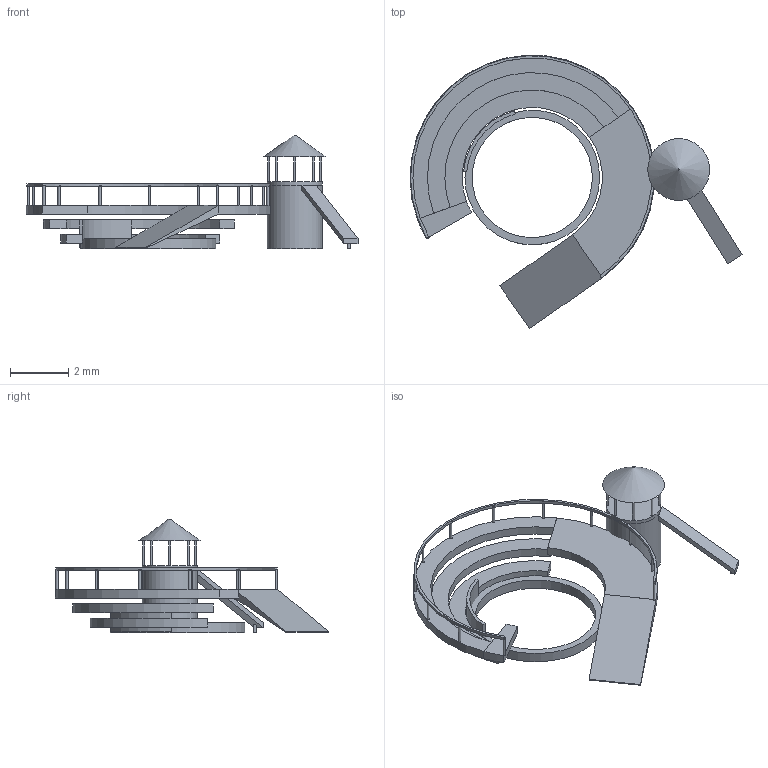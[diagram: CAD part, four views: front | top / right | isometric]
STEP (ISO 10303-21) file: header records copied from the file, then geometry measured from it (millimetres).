
FILE_DESCRIPTION(('ORION SD-AMF-05 Amfiteatr-pesochnitsa s igrovoy bashney | OOO ORION | zavod-orion.ru | sales@zavod-orion.ru | tel +7 __________'),'2;1');
FILE_NAME('AutoCAD Shape Model','2026-08-08T22:08:42',('Author'),( 'AutoCAD'),'AutoCAD STEP processor 7.9','AutoCAD 7.9' ,'Unknown');
FILE_SCHEMA(('AUTOMOTIVE_DESIGN { 1 0 10303 214 1 1 1 1 }'));
Length unit declared in the file: millimetre
Products named in the file (35): ORION SD-AMF-05 Amfiteatr-pesochnitsa s igrovoy bashney
Assembly tree (34 placements, depth 2):
  ORION SD-AMF-05 Amfiteatr-pesochnitsa s igrovoy bashney
    ORION SD-AMF-05 Amfiteatr-pesochnitsa s igrovoy bashney
    ORION SD-AMF-05 Amfiteatr-pesochnitsa s igrovoy bashney
    ORION SD-AMF-05 Amfiteatr-pesochnitsa s igrovoy bashney
    ORION SD-AMF-05 Amfiteatr-pesochnitsa s igrovoy bashney
    ORION SD-AMF-05 Amfiteatr-pesochnitsa s igrovoy bashney
    ORION SD-AMF-05 Amfiteatr-pesochnitsa s igrovoy bashney
    ORION SD-AMF-05 Amfiteatr-pesochnitsa s igrovoy bashney
    ORION SD-AMF-05 Amfiteatr-pesochnitsa s igrovoy bashney
    ORION SD-AMF-05 Amfiteatr-pesochnitsa s igrovoy bashney
    ORION SD-AMF-05 Amfiteatr-pesochnitsa s igrovoy bashney
    ORION SD-AMF-05 Amfiteatr-pesochnitsa s igrovoy bashney
    ORION SD-AMF-05 Amfiteatr-pesochnitsa s igrovoy bashney
    ORION SD-AMF-05 Amfiteatr-pesochnitsa s igrovoy bashney
    ORION SD-AMF-05 Amfiteatr-pesochnitsa s igrovoy bashney
    ORION SD-AMF-05 Amfiteatr-pesochnitsa s igrovoy bashney
    ORION SD-AMF-05 Amfiteatr-pesochnitsa s igrovoy bashney
    ORION SD-AMF-05 Amfiteatr-pesochnitsa s igrovoy bashney
    ORION SD-AMF-05 Amfiteatr-pesochnitsa s igrovoy bashney
    ORION SD-AMF-05 Amfiteatr-pesochnitsa s igrovoy bashney
    ORION SD-AMF-05 Amfiteatr-pesochnitsa s igrovoy bashney
    ORION SD-AMF-05 Amfiteatr-pesochnitsa s igrovoy bashney
    ORION SD-AMF-05 Amfiteatr-pesochnitsa s igrovoy bashney
    ORION SD-AMF-05 Amfiteatr-pesochnitsa s igrovoy bashney
    ORION SD-AMF-05 Amfiteatr-pesochnitsa s igrovoy bashney
    ORION SD-AMF-05 Amfiteatr-pesochnitsa s igrovoy bashney
    ORION SD-AMF-05 Amfiteatr-pesochnitsa s igrovoy bashney
    ORION SD-AMF-05 Amfiteatr-pesochnitsa s igrovoy bashney
    ORION SD-AMF-05 Amfiteatr-pesochnitsa s igrovoy bashney
    ORION SD-AMF-05 Amfiteatr-pesochnitsa s igrovoy bashney
    ORION SD-AMF-05 Amfiteatr-pesochnitsa s igrovoy bashney
    ORION SD-AMF-05 Amfiteatr-pesochnitsa s igrovoy bashney
    ORION SD-AMF-05 Amfiteatr-pesochnitsa s igrovoy bashney
    ORION SD-AMF-05 Amfiteatr-pesochnitsa s igrovoy bashney
    ORION SD-AMF-05 Amfiteatr-pesochnitsa s igrovoy bashney
Bounding box: 11.43 x 9.41 x 3.92 mm (x, y, z)
Volume: 13.2 mm3; surface area: 171.4 mm2
Topology: 34 solids, 34 shells, 131 faces, 189 edges, 126 vertices
Faces by surface type: plane 90, cylinder 40, cone 1
Full cylindrical faces by diameter (mm): 0.07 x8, 0.08 x12, 0.1 x1, 1.77 x1, 1.89 x2, 4.14 x1, 4.637 x1
Entity records: 5878 total; most frequent: DIRECTION 977, CARTESIAN_POINT 883, LINE 403, VECTOR 403, ORIENTED_EDGE 378, PCURVE 378, DEFINITIONAL_REPRESENTATION 378, AXIS2_PLACEMENT_3D 248
